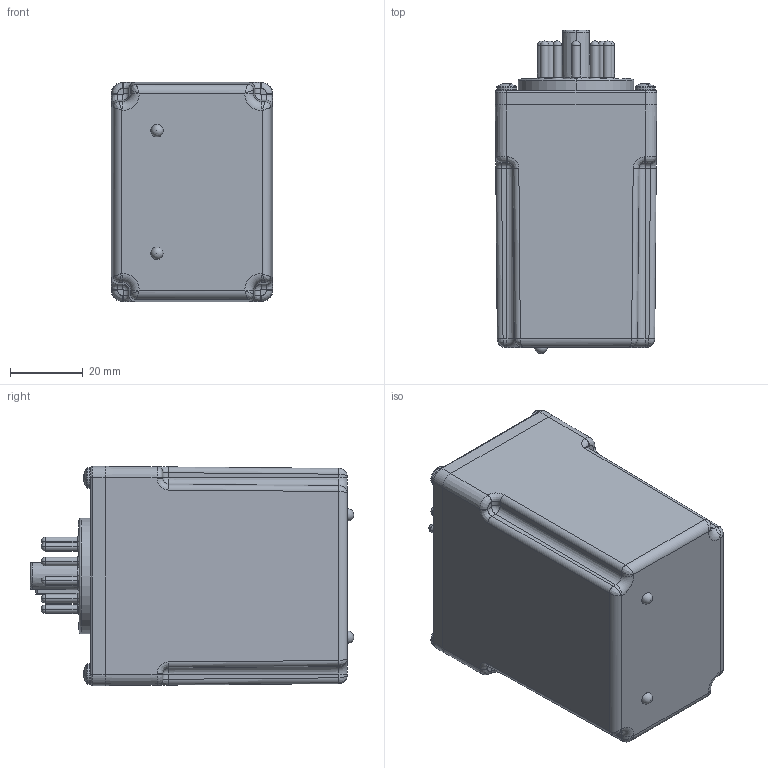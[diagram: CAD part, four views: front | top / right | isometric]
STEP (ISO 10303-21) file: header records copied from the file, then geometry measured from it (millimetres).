
FILE_DESCRIPTION(('FreeCAD Model'),'2;1');
FILE_NAME('Open CASCADE Shape Model','2023-06-06T11:53:15',(''),(''), 'Open CASCADE STEP processor 7.6','FreeCAD','Unknown');
FILE_SCHEMA(('AUTOMOTIVE_DESIGN { 1 0 10303 214 1 1 1 1 }'));
Products named in the file (1): Compound001
Bounding box: 44.45 x 88.95 x 60.33 mm (x, y, z)
Surface area: 44396.9 mm2 (no closed solid volume)
Topology: 0 solids, 23 shells, 1926 faces, 4750 edges, 2936 vertices
Faces by surface type: plane 586, cylinder 528, bspline 326, torus 282, revolution 140, cone 60, sphere 4
Entity records: 186314 total; most frequent: CARTESIAN_POINT 96469, DIRECTION 14951, ORIENTED_EDGE 9460, PCURVE 9460, DEFINITIONAL_REPRESENTATION 9460, LINE 8763, VECTOR 8763, EDGE_CURVE 4738
